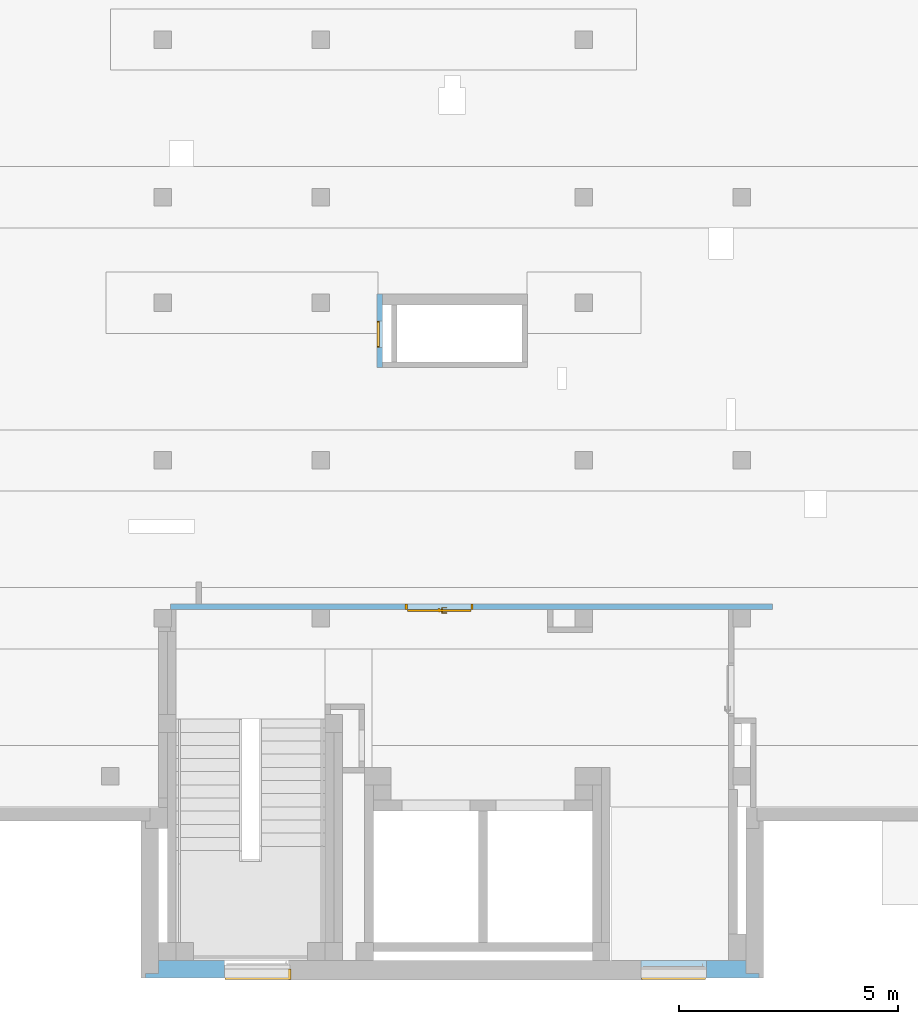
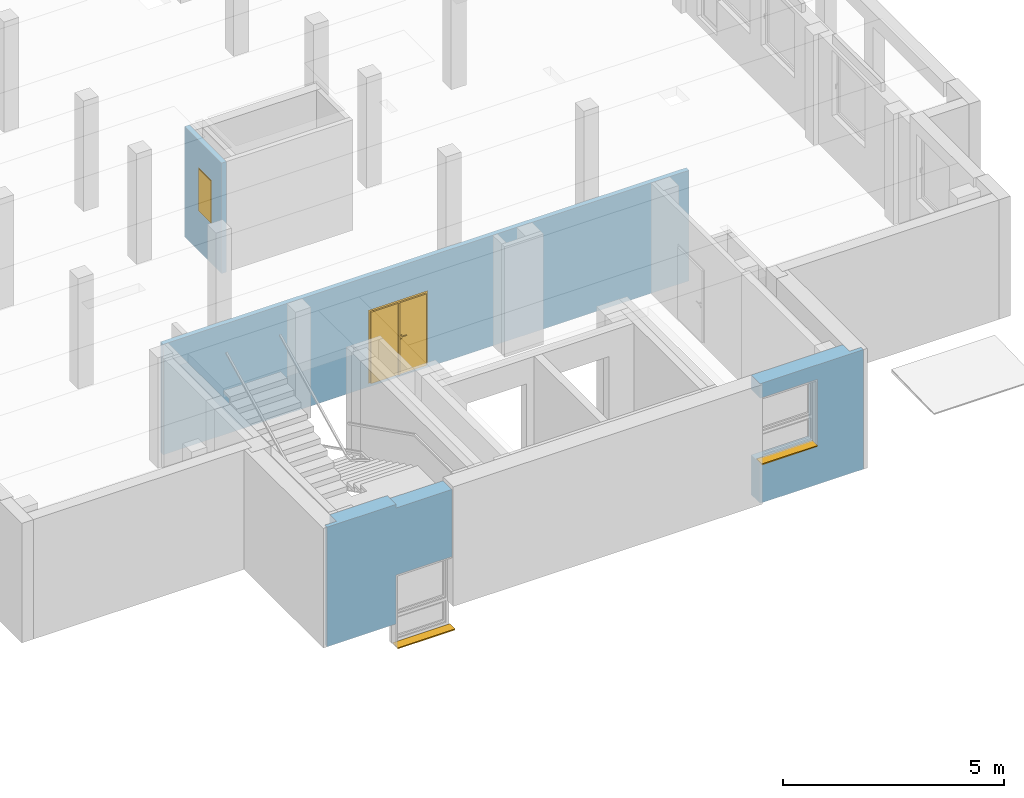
# One storey, part 15 of 27: 3 windows, 1 door, 5 openings, plus 4 elements that do not belong to this part.
"""IFC4 building model written with IfcOpenShell, lengths in metres."""

from ifc_helpers import new_model, entity, si_unit, converted_unit, derived_unit, frame, frame_2d, origin, origin_with_axes, place, context, subcontext, project, spatial, polyline, rectangle, outline, extrude, closed_shell, open_shell, faceted_brep, surface_model, source, transform, mapped, material, layer, layer_set, layer_usage, type_object, element, fill, save


model = new_model("IFC4")

# Units and contexts
model_context = context("Model", 3, precision=1e-05, world=origin())
body_context = subcontext(model_context, "Body", "Model", "MODEL_VIEW")
ifc_project = project(units=[si_unit("LENGTHUNIT", "METRE"), si_unit("AREAUNIT", "SQUARE_METRE"), si_unit("VOLUMEUNIT", "CUBIC_METRE"), si_unit("MASSUNIT", "GRAM", prefix="KILO"), converted_unit("PLANEANGLEUNIT", "DEGREE", entity("IfcPlaneAngleMeasure", 0.0174532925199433), si_unit("PLANEANGLEUNIT", "RADIAN"), dimensions=[0, 0, 0, 0, 0, 0, 0]), derived_unit("THERMALTRANSMITTANCEUNIT", [(si_unit("POWERUNIT", "WATT"), 1), (si_unit("THERMODYNAMICTEMPERATUREUNIT", "KELVIN"), -1), (si_unit("LENGTHUNIT", "METRE"), -2)]), derived_unit("VOLUMETRICFLOWRATEUNIT", [(si_unit("LENGTHUNIT", "METRE"), 3), (converted_unit("TIMEUNIT", "hour", entity("IfcTimeMeasure", 3600.0), si_unit("TIMEUNIT", "SECOND"), dimensions=[0, 0, 1, 0, 0, 0, 0]), -1), (si_unit("LENGTHUNIT", "METRE"), -1)])], contexts=[model_context])

# Site, building, storey
site_placement = place(None, origin())
site = spatial("IfcSite", under=ifc_project, at=site_placement, Name="3. ASŘ", CompositionType="ELEMENT")
building_placement = place(site_placement, origin())
building = spatial("IfcBuilding", under=site, at=building_placement, Name="Pavilon C", CompositionType="ELEMENT")
storey_placement = place(building_placement, frame((0.0, 0.0, 7.2)))
storey = spatial("IfcBuildingStorey", under=building, at=storey_placement, Name="Půdorys 3.NP", CompositionType="ELEMENT", Elevation=7.2)

# Wall, opening, door
ifc_material_1 = material(Name="ZDIVO Z CDm")
ifc_layer_1 = layer(ifc_material_1, 0.125)
ifc_layer_set_1 = layer_set([ifc_layer_1])
ifc_layer_usage_1 = layer_usage(ifc_layer_set_1, "AXIS2", "POSITIVE", 0.0)
wall_1_placement = place(storey_placement, frame((30.925, 3.79999999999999, -0.1)))
wall_1 = element("IfcWall", 1, at=wall_1_placement, inside=storey, material=ifc_layer_usage_1, Name="ZDIVO Z CDm", context=body_context, shape_type="SweptSolid", body=[
    extrude(rectangle(XDim=13.725, YDim=0.125, at=frame_2d((6.8625, 0.0625000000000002), x_axis=(1.0, 0.0))), origin_with_axes(), (0.0, 0.0, 1.0), 3.05),
])
opening_1_placement = place(wall_1_placement, frame((5.35, 0.0, 0.1), z_axis=(0.0, 1.0, 0.0), x_axis=(0.0, 0.0, 1.0)))
opening_1 = element("IfcOpeningElement", 2, at=opening_1_placement, cuts=wall_1, Name="Dveřní otvor", ObjectType="Opening", context=body_context, shape_type="SweptSolid", body=[
    extrude(outline(polyline([(0.0, 1.55), (2.02, 1.55), (2.02, 0.0), (0.0, 0.0), (0.0, 1.55)])), origin_with_axes(), (0.0, 0.0, 1.0), 0.125),
])
door_type = type_object("IfcDoorType", Name="D501", OperationType="NOTDEFINED", ParameterTakesPrecedence=False, PredefinedType="DOOR")
shared_shape_1 = source(origin_with_axes(), body_context, "Body", "SurfaceModel", [
    surface_model("IfcShellBasedSurfaceModel", [(0.0, 0.125, 2.02), (0.0, 0.125, -7.65404249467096e-18), (0.05, 0.125, -7.65404249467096e-18), (0.05, 0.125, 2.02), (0.0, 0.0, 7.65404249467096e-18), (0.0, 2.41584530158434e-16, 2.02), (0.05, 2.41584530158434e-16, 2.02), (0.05, 0.0, 7.65404249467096e-18)], [closed_shell([[[0, 1, 2, 3]], [[4, 5, 6, 7]], [[1, 0, 5, 4]], [[2, 1, 4, 7]], [[3, 2, 7, 6]], [[0, 3, 6, 5]]], orient=[[False], [False], [False], [False], [False], [False]])]),
    surface_model("IfcShellBasedSurfaceModel", [(1.5, 0.125, 2.02), (1.5, 0.125, -7.65404249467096e-18), (1.55, 0.125, -7.65404249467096e-18), (1.55, 0.125, 2.02), (1.5, 0.0, 7.65404249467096e-18), (1.5, 2.41584530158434e-16, 2.02), (1.55, 2.41584530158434e-16, 2.02), (1.55, 0.0, 7.65404249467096e-18)], [closed_shell([[[0, 1, 2, 3]], [[4, 5, 6, 7]], [[1, 0, 5, 4]], [[2, 1, 4, 7]], [[3, 2, 7, 6]], [[0, 3, 6, 5]]], orient=[[False], [False], [False], [False], [False], [False]])]),
    surface_model("IfcShellBasedSurfaceModel", [(0.05, 0.125, 2.02), (0.05, 0.125, 1.97), (1.5, 0.125, 1.97), (1.5, 0.125, 2.02), (0.05, 2.41584530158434e-16, 1.97), (0.05, 2.41584530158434e-16, 2.02), (1.5, 2.41584530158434e-16, 2.02), (1.5, 2.41584530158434e-16, 1.97)], [closed_shell([[[0, 1, 2, 3]], [[4, 5, 6, 7]], [[1, 0, 5, 4]], [[2, 1, 4, 7]], [[3, 2, 7, 6]], [[0, 3, 6, 5]]], orient=[[False], [False], [False], [False], [False], [False]])]),
    surface_model("IfcShellBasedSurfaceModel", [(0.05, 0.165, 1.97), (0.05, 0.165, -1.25526296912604e-17), (0.7745, 0.165, -1.25526296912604e-17), (0.7745, 0.165, 1.97), (0.05, 0.125, -7.65404249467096e-18), (0.05, 0.125, 1.97), (0.7745, 0.125, 1.97), (0.7745, 0.125, -7.65404249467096e-18)], [closed_shell([[[0, 1, 2, 3]], [[4, 5, 6, 7]], [[1, 0, 5, 4]], [[2, 1, 4, 7]], [[3, 2, 7, 6]], [[0, 3, 6, 5]]], orient=[[False], [False], [False], [False], [False], [False]])]),
    surface_model("IfcShellBasedSurfaceModel", [(0.7545, 0.165, 1.97), (0.7945, 0.165, 1.97), (0.7945, 0.165, -1.25526296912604e-17), (0.7545, 0.165, -1.25526296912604e-17), (0.7545, 0.185, -1.50019232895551e-17), (0.7945, 0.185, -1.50019232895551e-17), (0.7945, 0.185, 1.97), (0.7545, 0.185, 1.97)], [closed_shell([[[0, 1, 2, 3]], [[4, 5, 6, 7]], [[3, 4, 7, 0]], [[2, 5, 4, 3]], [[1, 6, 5, 2]], [[0, 7, 6, 1]]], orient=[[False], [False], [False], [False], [False], [False]])]),
    surface_model("IfcShellBasedSurfaceModel", [(0.733315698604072, 0.125, 0.93625), (0.737, 0.125, 0.95), (0.733315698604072, 0.125, 0.96375), (0.72325, 0.125, 0.973815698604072), (0.7095, 0.125, 0.9775), (0.69575, 0.125, 0.973815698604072), (0.685684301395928, 0.125, 0.96375), (0.682, 0.125, 0.95), (0.685684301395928, 0.125, 0.93625), (0.69575, 0.125, 0.926184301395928), (0.7095, 0.125, 0.9225), (0.72325, 0.125, 0.926184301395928), (0.737, 0.1125, 0.95), (0.733315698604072, 0.1125, 0.93625), (0.72325, 0.1125, 0.926184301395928), (0.7095, 0.1125, 0.9225), (0.69575, 0.1125, 0.926184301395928), (0.685684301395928, 0.1125, 0.93625), (0.682, 0.1125, 0.95), (0.685684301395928, 0.1125, 0.96375), (0.69575, 0.1125, 0.973815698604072), (0.7095, 0.1125, 0.9775), (0.72325, 0.1125, 0.973815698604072), (0.733315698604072, 0.1125, 0.96375)], [closed_shell([[[0, 1, 2, 3, 4, 5, 6, 7, 8, 9, 10, 11]], [[12, 13, 14, 15, 16, 17, 18, 19, 20, 21, 22, 23]], [[1, 0, 13, 12]], [[2, 1, 12, 23]], [[3, 2, 23, 22]], [[4, 3, 22, 21]], [[5, 4, 21, 20]], [[6, 5, 20, 19]], [[7, 6, 19, 18]], [[8, 7, 18, 17]], [[9, 8, 17, 16]], [[10, 9, 16, 15]], [[11, 10, 15, 14]], [[0, 11, 14, 13]]], orient=[[False], [False], [False], [False], [False], [False], [False], [False], [False], [False], [False], [False], [False], [False]])]),
    surface_model("IfcShellBasedSurfaceModel", [(0.733315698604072, 0.125, 1.03625), (0.737, 0.125, 1.05), (0.733315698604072, 0.125, 1.06375), (0.72325, 0.125, 1.07381569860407), (0.7095, 0.125, 1.0775), (0.69575, 0.125, 1.07381569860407), (0.685684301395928, 0.125, 1.06375), (0.682, 0.125, 1.05), (0.685684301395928, 0.125, 1.03625), (0.69575, 0.125, 1.02618430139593), (0.7095, 0.125, 1.0225), (0.72325, 0.125, 1.02618430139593), (0.737, 0.1125, 1.05), (0.733315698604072, 0.1125, 1.03625), (0.72325, 0.1125, 1.02618430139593), (0.7095, 0.1125, 1.0225), (0.69575, 0.1125, 1.02618430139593), (0.685684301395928, 0.1125, 1.03625), (0.682, 0.1125, 1.05), (0.685684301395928, 0.1125, 1.06375), (0.69575, 0.1125, 1.07381569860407), (0.7095, 0.1125, 1.0775), (0.72325, 0.1125, 1.07381569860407), (0.733315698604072, 0.1125, 1.06375)], [closed_shell([[[0, 1, 2, 3, 4, 5, 6, 7, 8, 9, 10, 11]], [[12, 13, 14, 15, 16, 17, 18, 19, 20, 21, 22, 23]], [[1, 0, 13, 12]], [[2, 1, 12, 23]], [[3, 2, 23, 22]], [[4, 3, 22, 21]], [[5, 4, 21, 20]], [[6, 5, 20, 19]], [[7, 6, 19, 18]], [[8, 7, 18, 17]], [[9, 8, 17, 16]], [[10, 9, 16, 15]], [[11, 10, 15, 14]], [[0, 11, 14, 13]]], orient=[[False], [False], [False], [False], [False], [False], [False], [False], [False], [False], [False], [False], [False], [False]])]),
    surface_model("IfcShellBasedSurfaceModel", [(0.7095, 0.125, 1.06), (0.7045, 0.125, 1.05866025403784), (0.700839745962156, 0.125, 1.055), (0.6995, 0.125, 1.05), (0.700839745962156, 0.125, 1.045), (0.7045, 0.125, 1.04133974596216), (0.7095, 0.125, 1.04), (0.7145, 0.125, 1.04133974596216), (0.718160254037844, 0.125, 1.045), (0.7195, 0.125, 1.05), (0.718160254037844, 0.125, 1.055), (0.7145, 0.125, 1.05866025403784), (0.7145, 0.0800000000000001, 1.05866025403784), (0.7095, 0.0850000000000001, 1.06), (0.718160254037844, 0.0763397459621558, 1.055), (0.7195, 0.0750000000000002, 1.05), (0.718160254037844, 0.0763397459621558, 1.045), (0.7145, 0.0800000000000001, 1.04133974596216), (0.7095, 0.0850000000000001, 1.04), (0.7045, 0.0900000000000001, 1.04133974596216), (0.700839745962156, 0.0936602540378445, 1.045), (0.6995, 0.0950000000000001, 1.05), (0.700839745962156, 0.0936602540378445, 1.055), (0.7045, 0.0900000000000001, 1.05866025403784), (0.5945, 0.0800000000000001, 1.05866025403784), (0.5945, 0.0850000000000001, 1.06), (0.5945, 0.0763397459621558, 1.055), (0.5945, 0.0750000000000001, 1.05), (0.5945, 0.0763397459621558, 1.045), (0.5945, 0.0800000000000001, 1.04133974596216), (0.5945, 0.0850000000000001, 1.04), (0.5945, 0.0900000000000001, 1.04133974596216), (0.5945, 0.0936602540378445, 1.045), (0.5945, 0.0950000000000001, 1.05), (0.5945, 0.0936602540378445, 1.055), (0.5945, 0.0900000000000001, 1.05866025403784)], [open_shell([[[0, 1, 2, 3, 4, 5, 6, 7, 8, 9, 10, 11]], [[0, 11, 12, 13]], [[11, 10, 14, 12]], [[10, 9, 15, 14]], [[9, 8, 16, 15]], [[8, 7, 17, 16]], [[7, 6, 18, 17]], [[6, 5, 19, 18]], [[5, 4, 20, 19]], [[4, 3, 21, 20]], [[3, 2, 22, 21]], [[2, 1, 23, 22]], [[1, 0, 13, 23]], [[13, 12, 24, 25]], [[12, 14, 26, 24]], [[14, 15, 27, 26]], [[15, 16, 28, 27]], [[16, 17, 29, 28]], [[17, 18, 30, 29]], [[18, 19, 31, 30]], [[19, 20, 32, 31]], [[20, 21, 33, 32]], [[21, 22, 34, 33]], [[22, 23, 35, 34]], [[23, 13, 25, 35]]], orient=[[False], [False], [False], [False], [False], [False], [False], [False], [False], [False], [False], [False], [False], [False], [False], [False], [False], [False], [False], [False], [False], [False], [False], [False], [False]])]),
    surface_model("IfcShellBasedSurfaceModel", [(0.733315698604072, 0.165, 0.93625), (0.72325, 0.165, 0.926184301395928), (0.7095, 0.165, 0.9225), (0.69575, 0.165, 0.926184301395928), (0.685684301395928, 0.165, 0.93625), (0.682, 0.165, 0.95), (0.685684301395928, 0.165, 0.96375), (0.69575, 0.165, 0.973815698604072), (0.7095, 0.165, 0.9775), (0.72325, 0.165, 0.973815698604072), (0.733315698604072, 0.165, 0.96375), (0.737, 0.165, 0.95), (0.737, 0.1775, 0.95), (0.733315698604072, 0.1775, 0.96375), (0.72325, 0.1775, 0.973815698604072), (0.7095, 0.1775, 0.9775), (0.69575, 0.1775, 0.973815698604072), (0.685684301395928, 0.1775, 0.96375), (0.682, 0.1775, 0.95), (0.685684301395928, 0.1775, 0.93625), (0.69575, 0.1775, 0.926184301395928), (0.7095, 0.1775, 0.9225), (0.72325, 0.1775, 0.926184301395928), (0.733315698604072, 0.1775, 0.93625)], [closed_shell([[[0, 1, 2, 3, 4, 5, 6, 7, 8, 9, 10, 11]], [[12, 13, 14, 15, 16, 17, 18, 19, 20, 21, 22, 23]], [[11, 12, 23, 0]], [[10, 13, 12, 11]], [[9, 14, 13, 10]], [[8, 15, 14, 9]], [[7, 16, 15, 8]], [[6, 17, 16, 7]], [[5, 18, 17, 6]], [[4, 19, 18, 5]], [[3, 20, 19, 4]], [[2, 21, 20, 3]], [[1, 22, 21, 2]], [[0, 23, 22, 1]]], orient=[[False], [False], [False], [False], [False], [False], [False], [False], [False], [False], [False], [False], [False], [False]])]),
    surface_model("IfcShellBasedSurfaceModel", [(0.733315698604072, 0.165, 1.03625), (0.72325, 0.165, 1.02618430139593), (0.7095, 0.165, 1.0225), (0.69575, 0.165, 1.02618430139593), (0.685684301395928, 0.165, 1.03625), (0.682, 0.165, 1.05), (0.685684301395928, 0.165, 1.06375), (0.69575, 0.165, 1.07381569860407), (0.7095, 0.165, 1.0775), (0.72325, 0.165, 1.07381569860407), (0.733315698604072, 0.165, 1.06375), (0.737, 0.165, 1.05), (0.737, 0.1775, 1.05), (0.733315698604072, 0.1775, 1.06375), (0.72325, 0.1775, 1.07381569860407), (0.7095, 0.1775, 1.0775), (0.69575, 0.1775, 1.07381569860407), (0.685684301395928, 0.1775, 1.06375), (0.682, 0.1775, 1.05), (0.685684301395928, 0.1775, 1.03625), (0.69575, 0.1775, 1.02618430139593), (0.7095, 0.1775, 1.0225), (0.72325, 0.1775, 1.02618430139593), (0.733315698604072, 0.1775, 1.03625)], [closed_shell([[[0, 1, 2, 3, 4, 5, 6, 7, 8, 9, 10, 11]], [[12, 13, 14, 15, 16, 17, 18, 19, 20, 21, 22, 23]], [[11, 12, 23, 0]], [[10, 13, 12, 11]], [[9, 14, 13, 10]], [[8, 15, 14, 9]], [[7, 16, 15, 8]], [[6, 17, 16, 7]], [[5, 18, 17, 6]], [[4, 19, 18, 5]], [[3, 20, 19, 4]], [[2, 21, 20, 3]], [[1, 22, 21, 2]], [[0, 23, 22, 1]]], orient=[[False], [False], [False], [False], [False], [False], [False], [False], [False], [False], [False], [False], [False], [False]])]),
    surface_model("IfcShellBasedSurfaceModel", [(0.7095, 0.165, 1.06), (0.7145, 0.165, 1.05866025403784), (0.718160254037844, 0.165, 1.055), (0.7195, 0.165, 1.05), (0.718160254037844, 0.165, 1.045), (0.7145, 0.165, 1.04133974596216), (0.7095, 0.165, 1.04), (0.7045, 0.165, 1.04133974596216), (0.700839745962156, 0.165, 1.045), (0.6995, 0.165, 1.05), (0.700839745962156, 0.165, 1.055), (0.7045, 0.165, 1.05866025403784), (0.7095, 0.205, 1.06), (0.7145, 0.21, 1.05866025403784), (0.718160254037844, 0.213660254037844, 1.055), (0.7195, 0.215, 1.05), (0.718160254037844, 0.213660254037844, 1.045), (0.7145, 0.21, 1.04133974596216), (0.7095, 0.205, 1.04), (0.7045, 0.2, 1.04133974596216), (0.700839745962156, 0.196339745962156, 1.045), (0.6995, 0.195, 1.05), (0.700839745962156, 0.196339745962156, 1.055), (0.7045, 0.2, 1.05866025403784), (0.5945, 0.205, 1.06), (0.5945, 0.21, 1.05866025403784), (0.5945, 0.213660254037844, 1.055), (0.5945, 0.215, 1.05), (0.5945, 0.213660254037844, 1.045), (0.5945, 0.21, 1.04133974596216), (0.5945, 0.205, 1.04), (0.5945, 0.2, 1.04133974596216), (0.5945, 0.196339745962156, 1.045), (0.5945, 0.195, 1.05), (0.5945, 0.196339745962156, 1.055), (0.5945, 0.2, 1.05866025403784)], [open_shell([[[0, 1, 2, 3, 4, 5, 6, 7, 8, 9, 10, 11]], [[0, 12, 13, 1]], [[1, 13, 14, 2]], [[2, 14, 15, 3]], [[3, 15, 16, 4]], [[4, 16, 17, 5]], [[5, 17, 18, 6]], [[6, 18, 19, 7]], [[7, 19, 20, 8]], [[8, 20, 21, 9]], [[9, 21, 22, 10]], [[10, 22, 23, 11]], [[11, 23, 12, 0]], [[12, 24, 25, 13]], [[13, 25, 26, 14]], [[14, 26, 27, 15]], [[15, 27, 28, 16]], [[16, 28, 29, 17]], [[17, 29, 30, 18]], [[18, 30, 31, 19]], [[19, 31, 32, 20]], [[20, 32, 33, 21]], [[21, 33, 34, 22]], [[22, 34, 35, 23]], [[23, 35, 24, 12]]], orient=[[False], [False], [False], [False], [False], [False], [False], [False], [False], [False], [False], [False], [False], [False], [False], [False], [False], [False], [False], [False], [False], [False], [False], [False], [False]])]),
    surface_model("IfcShellBasedSurfaceModel", [(0.7755, 0.165, 1.97), (0.7755, 0.165, -1.25526296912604e-17), (1.5, 0.165, -1.25526296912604e-17), (1.5, 0.165, 1.97), (0.7755, 0.125, -7.65404249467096e-18), (0.7755, 0.125, 1.97), (1.5, 0.125, 1.97), (1.5, 0.125, -7.65404249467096e-18)], [closed_shell([[[0, 1, 2, 3]], [[4, 5, 6, 7]], [[1, 0, 5, 4]], [[2, 1, 4, 7]], [[3, 2, 7, 6]], [[0, 3, 6, 5]]], orient=[[False], [False], [False], [False], [False], [False]])]),
    surface_model("IfcShellBasedSurfaceModel", [(0.7555, 0.125, 1.97), (0.7555, 0.125, -7.65404249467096e-18), (0.7955, 0.125, -7.65404249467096e-18), (0.7955, 0.125, 1.97), (0.7555, 0.105, -5.20474889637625e-18), (0.7555, 0.105, 1.97), (0.7955, 0.105, 1.97), (0.7955, 0.105, -5.20474889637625e-18)], [closed_shell([[[0, 1, 2, 3]], [[4, 5, 6, 7]], [[1, 0, 5, 4]], [[2, 1, 4, 7]], [[3, 2, 7, 6]], [[0, 3, 6, 5]]], orient=[[False], [False], [False], [False], [False], [False]])]),
])
door_placement = place(opening_1_placement, frame((0.0, 1.55, 0.125), z_axis=(1.0, 0.0, 0.0), x_axis=(0.0, -1.0, 1.22464679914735e-16)))
door = element("IfcDoor", 3, at=door_placement, inside=storey, type_object=door_type, Name="D501", OverallHeight=2.02, OverallWidth=1.55, context=body_context, shape_type="MappedRepresentation", body=[
    mapped(shared_shape_1, transform((0.0, 0.0, 0.0), x_axis=(1.0, 0.0, 0.0), y_axis=(0.0, 1.0, 0.0), z_axis=(0.0, 0.0, 1.0), scale=1.0)),
])
fill(opening_1, door)

# Wall, opening, window
ifc_material_2 = material(Name="ZDIVO Z CDm")
ifc_layer_2 = layer(ifc_material_2, 0.125)
ifc_layer_set_2 = layer_set([ifc_layer_2])
ifc_layer_usage_2 = layer_usage(ifc_layer_set_2, "AXIS2", "POSITIVE", 0.0)
wall_2_placement = place(storey_placement, frame((35.7625, 9.32499999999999, -0.1), z_axis=(0.0, 0.0, 1.0), x_axis=(0.0, 1.0, 0.0)))
wall_2 = element("IfcWall", 4, at=wall_2_placement, inside=storey, material=ifc_layer_usage_2, Name="ZDIVO Z CDm", context=body_context, shape_type="SweptSolid", body=[
    extrude(rectangle(XDim=1.67499999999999, YDim=0.125, at=frame_2d((0.837499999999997, 0.0625), x_axis=(1.0, 0.0))), origin_with_axes(), (0.0, 0.0, 1.0), 3.05),
])
opening_2_placement = place(wall_2_placement, frame((1.04999999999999, 0.125, 1.1), z_axis=(0.0, -1.0, 0.0), x_axis=(0.0, 0.0, 1.0)))
opening_2 = element("IfcOpeningElement", 5, at=opening_2_placement, cuts=wall_2, Name="Okenní otvor", ObjectType="Opening", context=body_context, shape_type="SweptSolid", body=[
    extrude(outline(polyline([(0.0, 0.6), (1.2, 0.6), (1.2, 0.0), (0.0, 0.0), (0.0, 0.6)])), origin_with_axes(), (0.0, 0.0, 1.0), 0.125),
])
shared_shape_2 = source(origin_with_axes(), body_context, "Body", "Brep", [
    faceted_brep([(0.0, 0.0600000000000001, 1.2), (0.0, 0.06, 4.91096680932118e-19), (0.02, 0.06, 4.91096680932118e-19), (0.02, 0.0600000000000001, 1.2), (0.0, 0.01, 6.61433067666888e-18), (0.0, 0.0100000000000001, 1.2), (0.02, 0.0100000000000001, 1.2), (0.02, 0.01, 6.61433067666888e-18)], [[[0, 1, 2, 3]], [[4, 5, 6, 7]], [[1, 0, 5, 4]], [[2, 1, 4, 7]], [[3, 2, 7, 6]], [[0, 3, 6, 5]]], orient=[[False], [False], [False], [False], [False], [False]]),
    faceted_brep([(0.58, 0.0600000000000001, 1.2), (0.58, 0.06, 4.91096680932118e-19), (0.6, 0.06, 4.91096680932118e-19), (0.6, 0.0600000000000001, 1.2), (0.58, 0.01, 6.61433067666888e-18), (0.58, 0.0100000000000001, 1.2), (0.6, 0.0100000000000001, 1.2), (0.6, 0.01, 6.61433067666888e-18)], [[[0, 1, 2, 3]], [[4, 5, 6, 7]], [[1, 0, 5, 4]], [[2, 1, 4, 7]], [[3, 2, 7, 6]], [[0, 3, 6, 5]]], orient=[[False], [False], [False], [False], [False], [False]]),
    faceted_brep([(0.02, 0.06, 0.02), (0.02, 0.06, 4.91096680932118e-19), (0.58, 0.06, 4.91096680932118e-19), (0.58, 0.06, 0.02), (0.02, 0.01, 6.61433067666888e-18), (0.02, 0.01, 0.02), (0.58, 0.01, 0.02), (0.58, 0.01, 6.61433067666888e-18)], [[[0, 1, 2, 3]], [[4, 5, 6, 7]], [[1, 0, 5, 4]], [[2, 1, 4, 7]], [[3, 2, 7, 6]], [[0, 3, 6, 5]]], orient=[[False], [False], [False], [False], [False], [False]]),
    faceted_brep([(0.02, 0.0600000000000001, 1.2), (0.02, 0.0600000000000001, 1.18), (0.58, 0.0600000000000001, 1.18), (0.58, 0.0600000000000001, 1.2), (0.02, 0.0100000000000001, 1.18), (0.02, 0.0100000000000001, 1.2), (0.58, 0.0100000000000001, 1.2), (0.58, 0.0100000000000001, 1.18)], [[[0, 1, 2, 3]], [[4, 5, 6, 7]], [[1, 0, 5, 4]], [[2, 1, 4, 7]], [[3, 2, 7, 6]], [[0, 3, 6, 5]]], orient=[[False], [False], [False], [False], [False], [False]]),
    faceted_brep([(0.02, 0.0100000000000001, 1.18), (0.02, 0.01, 0.02), (0.58, 0.01, 0.02), (0.58, 0.0100000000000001, 1.18), (0.02, 0.0, 0.02), (0.02, 1.4210854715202e-16, 1.18), (0.58, 1.4210854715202e-16, 1.18), (0.58, 0.0, 0.02)], [[[0, 1, 2, 3]], [[4, 5, 6, 7]], [[1, 0, 5, 4]], [[2, 1, 4, 7]], [[3, 2, 7, 6]], [[0, 3, 6, 5]]], orient=[[False], [False], [False], [False], [False], [False]]),
])
window_1_placement = place(opening_2_placement, frame((0.0, 0.600000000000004, -0.0100000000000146), z_axis=(1.0, 0.0, 0.0), x_axis=(0.0, -1.0, -1.22464679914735e-16)))
window_1 = element("IfcWindow", 6, at=window_1_placement, inside=storey, Name="O01", OverallHeight=1.2, OverallWidth=0.6, PartitioningType="USERDEFINED", PredefinedType="WINDOW", context=body_context, shape_type="MappedRepresentation", body=[
    mapped(shared_shape_2, transform((0.0, 0.0, 0.0), x_axis=(1.0, 0.0, 0.0), y_axis=(0.0, -1.0, 0.0), z_axis=(0.0, 0.0, 1.0), scale=1.0)),
])
fill(opening_2, window_1)

# Wall, openings, window
ifc_material_3 = material(Name="EPS")
ifc_layer_3 = layer(ifc_material_3, 0.1)
ifc_material_4 = material(Name="ZELEZOBETONOVÁ KCE")
ifc_layer_4 = layer(ifc_material_4, 0.3)
ifc_layer_set_3 = layer_set([ifc_layer_3, ifc_layer_4])
ifc_layer_usage_3 = layer_usage(ifc_layer_set_3, "AXIS2", "POSITIVE", -0.1)
wall_3_placement = place(storey_placement, frame((30.35, -4.6, -0.1)))
wall_3 = element("IfcWall", 7, at=wall_3_placement, inside=storey, material=ifc_layer_usage_3, Name="ZELEZOBETONOVÁ KCE", context=body_context, shape_type="SweptSolid", body=[
    extrude(outline(polyline([(0.3, 0.4), (0.3, 0.1), (0.0, 0.1), (0.0, 0.0), (3.26, 0.0), (3.26, 0.4), (0.3, 0.4)])), origin_with_axes(), (0.0, 0.0, 1.0), 3.3),
])
opening_3_placement = place(wall_3_placement, frame((1.8, 0.0, 3.2), z_axis=(0.0, 1.0, 0.0), x_axis=(0.0, 0.0, 1.0)))
element("IfcOpeningElement", 8, at=opening_3_placement, cuts=wall_3, Name="Okenní otvor", ObjectType="Opening", context=body_context, shape_type="SweptSolid", body=[
    extrude(outline(polyline([(0.0, 1.5), (0.1, 1.5), (0.1, 0.0), (0.0, 0.0), (0.0, 1.5)])), origin_with_axes(), (0.0, 0.0, 1.0), 0.1),
    extrude(outline(polyline([(0.0, 1.5), (0.1, 1.5), (0.1, 0.0), (0.0, 0.0), (0.0, 1.5)])), frame((0.0, 0.0, 0.1), z_axis=(0.0, 0.0, 1.0), x_axis=(1.0, 0.0, 0.0)), (0.0, 0.0, 1.0), 0.3),
])
opening_4_placement = place(wall_3_placement, frame((1.8, 0.0, -0.65), z_axis=(0.0, 1.0, 0.0), x_axis=(0.0, 0.0, 1.0)))
opening_4 = element("IfcOpeningElement", 9, at=opening_4_placement, cuts=wall_3, Name="Okenní otvor", ObjectType="Opening", context=body_context, shape_type="SweptSolid", body=[
    extrude(outline(polyline([(0.0, 1.5), (2.0, 1.5), (2.0, 0.0), (0.0, 0.0), (0.0, 1.5)])), origin_with_axes(), (0.0, 0.0, 1.0), 0.1),
    extrude(outline(polyline([(0.0, 1.5), (2.0, 1.5), (2.0, 0.0), (0.0, 0.0), (0.0, 1.5)])), frame((0.0, 0.0, 0.1), z_axis=(0.0, 0.0, 1.0), x_axis=(1.0, 0.0, 0.0)), (0.0, 0.0, 1.0), 0.3),
])
ifc_material_5 = material(Name="PLECH")
shared_shape_3 = source(origin_with_axes(), body_context, "Body", "Brep", [
    faceted_brep([(0.02, 0.04, 0.025), (0.02, 0.24, 0.025), (0.02, 0.24, 0.03), (0.02, 0.04, 0.03), (1.48, 0.04, 0.025), (1.48, 0.04, 0.03), (1.48, 0.24, 0.03), (1.48, 0.24, 0.025), (0.0, 0.04, 0.025), (0.0, 0.005, 0.025), (1.5, 0.005, 0.025), (1.5, 0.04, 0.025), (1.5, 0.04, 0.03), (1.5, 0.0, 0.03), (0.0, 0.0, 0.03), (0.0, 0.04, 0.03), (0.0, 0.0, 0.0), (0.0, 0.005, 0.0), (1.5, 0.005, 0.0), (1.5, 0.0, 0.0)], [[[0, 1, 2, 3]], [[4, 5, 6, 7]], [[1, 0, 8, 9, 10, 11, 4, 7]], [[2, 1, 7, 6]], [[3, 2, 6, 5, 12, 13, 14, 15]], [[8, 15, 14, 16, 17, 9]], [[11, 10, 18, 19, 13, 12]], [[15, 8, 0, 3]], [[5, 4, 11, 12]], [[16, 14, 13, 19]], [[17, 16, 19, 18]], [[9, 17, 18, 10]]], orient=[[False], [False], [False], [False], [False], [False], [False], [False], [False], [False], [False], [False]]),
    faceted_brep([(0.0, 0.04, 0.025), (0.0, 0.24, 0.025), (0.0, 0.24, 0.03), (0.0, 0.04, 0.03), (0.02, 0.04, 0.025), (0.02, 0.04, 0.03), (0.02, 0.24, 0.03), (0.02, 0.24, 0.025)], [[[0, 1, 2, 3]], [[4, 5, 6, 7]], [[1, 0, 4, 7]], [[2, 1, 7, 6]], [[3, 2, 6, 5]], [[0, 3, 5, 4]]], orient=[[False], [False], [False], [False], [False], [False]]),
    faceted_brep([(1.48, 0.04, 0.025), (1.48, 0.24, 0.025), (1.48, 0.24, 0.03), (1.48, 0.04, 0.03), (1.5, 0.04, 0.025), (1.5, 0.04, 0.03), (1.5, 0.24, 0.03), (1.5, 0.24, 0.025)], [[[0, 1, 2, 3]], [[4, 5, 6, 7]], [[1, 0, 4, 7]], [[2, 1, 7, 6]], [[3, 2, 6, 5]], [[0, 3, 5, 4]]], orient=[[False], [False], [False], [False], [False], [False]]),
])
window_2_placement = place(opening_4_placement, frame((-0.025, 0.02, -0.04), z_axis=(1.0, 0.0, 0.0), x_axis=(0.0, 1.0, 0.0)))
window_2 = element("IfcWindow", 10, at=window_2_placement, inside=storey, material=ifc_material_5, Name="Parapet vnější", OverallHeight=0.005, OverallWidth=1.46, PartitioningType="USERDEFINED", PredefinedType="WINDOW", context=body_context, shape_type="MappedRepresentation", body=[
    mapped(shared_shape_3, transform((0.0, 0.0, 0.0), x_axis=(1.0, 0.0, 0.0), y_axis=(0.0, 1.0, 0.0), z_axis=(0.0, 0.0, 1.0), scale=1.0)),
])
fill(opening_4, window_2)

# Wall, opening, window
ifc_material_6 = material(Name="EPS")
ifc_layer_5 = layer(ifc_material_6, 0.1)
ifc_material_7 = material(Name="ZELEZOBETONOVÁ KCE")
ifc_layer_6 = layer(ifc_material_7, 0.3)
ifc_layer_set_4 = layer_set([ifc_layer_5, ifc_layer_6])
ifc_layer_usage_4 = layer_usage(ifc_layer_set_4, "AXIS2", "POSITIVE", -0.1)
wall_4_placement = place(storey_placement, frame((41.65, -4.6, -0.1)))
wall_4 = element("IfcWall", 11, at=wall_4_placement, inside=storey, material=ifc_layer_usage_4, Name="ZELEZOBETONOVÁ KCE", context=body_context, shape_type="SweptSolid", body=[
    extrude(outline(polyline([(0.0, 0.0), (2.7, 0.0), (2.7, 0.1), (2.4, 0.1), (2.4, 0.4), (0.0, 0.4), (0.0, 0.0)])), origin_with_axes(), (0.0, 0.0, 1.0), 3.3),
])
opening_5_placement = place(wall_4_placement, frame((0.0, 0.0, 1.1), z_axis=(0.0, 1.0, 0.0), x_axis=(0.0, 0.0, 1.0)))
opening_5 = element("IfcOpeningElement", 12, at=opening_5_placement, cuts=wall_4, Name="Okenní otvor", ObjectType="Opening", context=body_context, shape_type="SweptSolid", body=[
    extrude(outline(polyline([(0.0, 1.5), (1.8, 1.5), (1.8, 0.0), (0.0, 0.0), (0.0, 1.5)])), origin_with_axes(), (0.0, 0.0, 1.0), 0.1),
    extrude(outline(polyline([(0.0, 1.5), (1.8, 1.5), (1.8, 0.0), (0.0, 0.0), (0.0, 1.5)])), frame((0.0, 0.0, 0.1), z_axis=(0.0, 0.0, 1.0), x_axis=(1.0, 0.0, 0.0)), (0.0, 0.0, 1.0), 0.3),
])
ifc_material_8 = material(Name="PLECH")
shared_shape_4 = source(origin_with_axes(), body_context, "Body", "Brep", [
    faceted_brep([(0.02, 0.04, 0.025), (0.02, 0.24, 0.025), (0.02, 0.24, 0.03), (0.02, 0.04, 0.03), (1.44, 0.04, 0.025), (1.44, 0.04, 0.03), (1.44, 0.24, 0.03), (1.44, 0.24, 0.025), (0.0, 0.04, 0.025), (0.0, 0.005, 0.025), (1.46, 0.005, 0.025), (1.46, 0.04, 0.025), (1.46, 0.04, 0.03), (1.46, 0.0, 0.03), (0.0, 0.0, 0.03), (0.0, 0.04, 0.03), (0.0, 0.0, 0.0), (0.0, 0.005, 0.0), (1.46, 0.005, 0.0), (1.46, 0.0, 0.0)], [[[0, 1, 2, 3]], [[4, 5, 6, 7]], [[1, 0, 8, 9, 10, 11, 4, 7]], [[2, 1, 7, 6]], [[3, 2, 6, 5, 12, 13, 14, 15]], [[8, 15, 14, 16, 17, 9]], [[11, 10, 18, 19, 13, 12]], [[15, 8, 0, 3]], [[5, 4, 11, 12]], [[16, 14, 13, 19]], [[17, 16, 19, 18]], [[9, 17, 18, 10]]], orient=[[False], [False], [False], [False], [False], [False], [False], [False], [False], [False], [False], [False]]),
    faceted_brep([(0.0, 0.04, 0.025), (0.0, 0.24, 0.025), (0.0, 0.24, 0.03), (0.0, 0.04, 0.03), (0.02, 0.04, 0.025), (0.02, 0.04, 0.03), (0.02, 0.24, 0.03), (0.02, 0.24, 0.025)], [[[0, 1, 2, 3]], [[4, 5, 6, 7]], [[1, 0, 4, 7]], [[2, 1, 7, 6]], [[3, 2, 6, 5]], [[0, 3, 5, 4]]], orient=[[False], [False], [False], [False], [False], [False]]),
    faceted_brep([(1.44, 0.04, 0.025), (1.44, 0.24, 0.025), (1.44, 0.24, 0.03), (1.44, 0.04, 0.03), (1.46, 0.04, 0.025), (1.46, 0.04, 0.03), (1.46, 0.24, 0.03), (1.46, 0.24, 0.025)], [[[0, 1, 2, 3]], [[4, 5, 6, 7]], [[1, 0, 4, 7]], [[2, 1, 7, 6]], [[3, 2, 6, 5]], [[0, 3, 5, 4]]], orient=[[False], [False], [False], [False], [False], [False]]),
])
window_3_placement = place(opening_5_placement, frame((-0.025, 0.02, -0.04), z_axis=(1.0, 0.0, 0.0), x_axis=(0.0, 1.0, 0.0)))
window_3 = element("IfcWindow", 13, at=window_3_placement, inside=storey, material=ifc_material_8, Name="Parapet vnější", OverallHeight=0.005, OverallWidth=1.42, PartitioningType="USERDEFINED", PredefinedType="WINDOW", context=body_context, shape_type="MappedRepresentation", body=[
    mapped(shared_shape_4, transform((0.0, 0.0, 0.0), x_axis=(1.0, 0.0, 0.0), y_axis=(0.0, 1.0, 0.0), z_axis=(0.0, 0.0, 1.0), scale=1.0)),
])
fill(opening_5, window_3)

save(model, "model.ifc")
